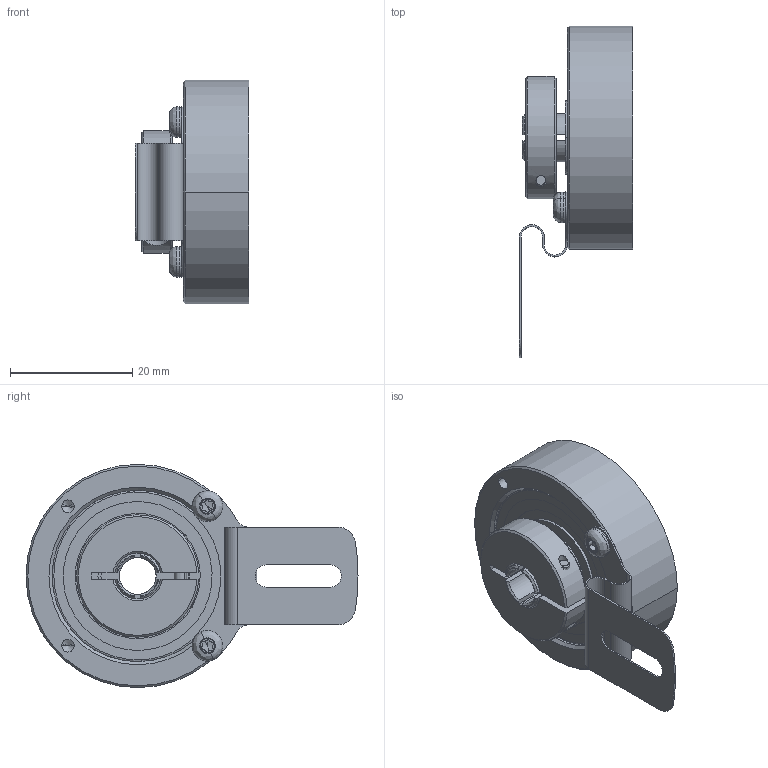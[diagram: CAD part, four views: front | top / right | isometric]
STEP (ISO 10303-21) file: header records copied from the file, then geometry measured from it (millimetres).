
FILE_DESCRIPTION (( 'STEP AP214' ), '1' );
FILE_NAME ('drawing-ucd-v6a0-q3a-n.STEP', '2017-01-16T13:37:57', ( '' ), ( '' ), 'SwSTEP 2.0', 'SolidWorks 2015', '' );
FILE_SCHEMA (( 'AUTOMOTIVE_DESIGN' ));
Length unit declared in the file: millimetre
Products named in the file (1): drawing-ucd-v6a0-q3a-n
Bounding box: 18.5 x 54.25 x 36.5 mm (x, y, z)
Volume: 10177.2 mm3; surface area: 13130.2 mm2
Topology: 20 solids, 20 shells, 431 faces, 1095 edges, 667 vertices
Faces by surface type: cylinder 147, plane 113, bspline 84, cone 83, torus 4
Entity records: 20387 total; most frequent: CARTESIAN_POINT 5582, ORIENTED_EDGE 2078, DIRECTION 2037, EDGE_CURVE 1039, AXIS2_PLACEMENT_3D 862, VERTEX_POINT 667, CIRCLE 514, EDGE_LOOP 490
